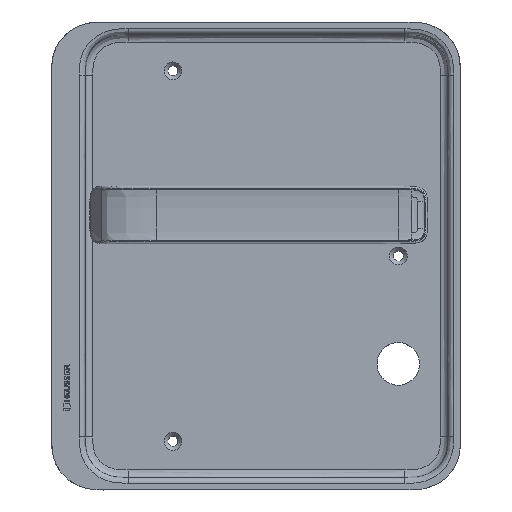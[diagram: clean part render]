
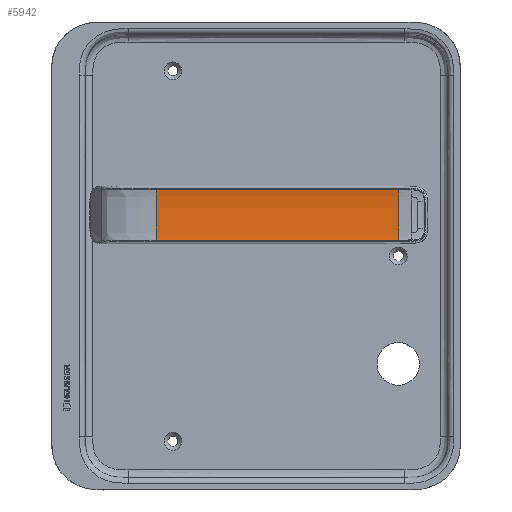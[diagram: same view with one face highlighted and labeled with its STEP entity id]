
A CAD part, top view. The second image highlights one B-rep face of the part: STEP entity #5942.
In plain terms, the highlighted free-form (B-spline) face has degree [1, 5] with [2, 6] control points.
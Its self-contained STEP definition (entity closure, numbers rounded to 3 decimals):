
#267=B_SPLINE_CURVE_WITH_KNOTS('',5,(#13985,#13986,#13987,#13988,#13989,
#13990),.UNSPECIFIED.,.F.,.F.,(6,6),(0.014,0.986),
 .UNSPECIFIED.);
#278=B_SPLINE_CURVE_WITH_KNOTS('',5,(#14172,#14173,#14174,#14175,#14176,
#14177),.UNSPECIFIED.,.F.,.F.,(6,6),(0.014,0.986),
 .UNSPECIFIED.);
#279=B_SPLINE_CURVE_WITH_KNOTS('',5,(#14178,#14179,#14180,#14181,#14182,
#14183,#14184,#14185,#14186,#14187,#14188,#14189,#14190,#14191,#14192),
 .UNSPECIFIED.,.F.,.F.,(6,1,1,1,1,1,1,1,1,1,6),(20.644,20.647,
22.233,23.819,25.404,26.99,28.576,
30.161,31.747,32.54,33.333),
 .UNSPECIFIED.);
#280=B_SPLINE_CURVE_WITH_KNOTS('',3,(#14193,#14194,#14195,#14196,#14197,
#14198,#14199,#14200,#14201,#14202,#14203,#14204,#14205,#14206,#14207,#14208,
#14209,#14210,#14211,#14212,#14213,#14214,#14215,#14216,#14217,#14218,#14219,
#14220),.UNSPECIFIED.,.F.,.F.,(4,3,3,3,3,3,3,3,3,4),(3.015,3.808,
4.601,6.186,7.772,9.358,10.943,
12.529,14.115,15.703),.UNSPECIFIED.);
#458=B_SPLINE_SURFACE_WITH_KNOTS('',1,5,((#14158,#14159,#14160,#14161,#14162,
#14163),(#14164,#14165,#14166,#14167,#14168,#14169)),.UNSPECIFIED.,.F.,
 .F.,.F.,(2,2),(6,6),(0.,1.),(0.,1.),.UNSPECIFIED.);
#1709=FACE_OUTER_BOUND('',#2106,.T.);
#2106=EDGE_LOOP('',(#4932,#4933,#4934,#4935));
#2707=VERTEX_POINT('',#13983);
#2708=VERTEX_POINT('',#13984);
#2719=VERTEX_POINT('',#14170);
#2720=VERTEX_POINT('',#14171);
#3462=EDGE_CURVE('',#2707,#2708,#267,.T.);
#3477=EDGE_CURVE('',#2719,#2720,#278,.T.);
#3478=EDGE_CURVE('',#2707,#2719,#279,.T.);
#3479=EDGE_CURVE('',#2720,#2708,#280,.T.);
#4932=ORIENTED_EDGE('',*,*,#3477,.F.);
#4933=ORIENTED_EDGE('',*,*,#3478,.F.);
#4934=ORIENTED_EDGE('',*,*,#3462,.T.);
#4935=ORIENTED_EDGE('',*,*,#3479,.F.);
#5942=ADVANCED_FACE('',(#1709),#458,.T.);
#13983=CARTESIAN_POINT('',(66.13,16.403,14.44));
#13984=CARTESIAN_POINT('',(66.121,42.914,14.44));
#13985=CARTESIAN_POINT('Ctrl Pts',(66.121,16.403,14.44));
#13986=CARTESIAN_POINT('Ctrl Pts',(66.123,18.551,13.823));
#13987=CARTESIAN_POINT('Ctrl Pts',(66.124,25.43,13.515));
#13988=CARTESIAN_POINT('Ctrl Pts',(66.124,33.886,13.515));
#13989=CARTESIAN_POINT('Ctrl Pts',(66.123,40.766,13.823));
#13990=CARTESIAN_POINT('Ctrl Pts',(66.121,42.914,14.44));
#14158=CARTESIAN_POINT('Ctrl Pts',(-60.73,16.259,14.484));
#14159=CARTESIAN_POINT('Ctrl Pts',(-60.73,18.185,13.832));
#14160=CARTESIAN_POINT('Ctrl Pts',(-60.73,25.262,13.506));
#14161=CARTESIAN_POINT('Ctrl Pts',(-60.73,34.055,13.506));
#14162=CARTESIAN_POINT('Ctrl Pts',(-60.73,41.132,13.832));
#14163=CARTESIAN_POINT('Ctrl Pts',(-60.73,43.059,14.484));
#14164=CARTESIAN_POINT('Ctrl Pts',(66.138,16.259,14.484));
#14165=CARTESIAN_POINT('Ctrl Pts',(66.14,18.185,13.832));
#14166=CARTESIAN_POINT('Ctrl Pts',(66.141,25.262,13.506));
#14167=CARTESIAN_POINT('Ctrl Pts',(66.141,34.055,13.506));
#14168=CARTESIAN_POINT('Ctrl Pts',(66.14,41.132,13.832));
#14169=CARTESIAN_POINT('Ctrl Pts',(66.138,43.059,14.484));
#14170=CARTESIAN_POINT('',(-60.73,16.403,14.439));
#14171=CARTESIAN_POINT('',(-60.73,42.915,14.439));
#14172=CARTESIAN_POINT('Ctrl Pts',(-60.73,16.403,14.439));
#14173=CARTESIAN_POINT('Ctrl Pts',(-60.73,18.551,13.823));
#14174=CARTESIAN_POINT('Ctrl Pts',(-60.73,25.43,13.515));
#14175=CARTESIAN_POINT('Ctrl Pts',(-60.73,33.887,13.515));
#14176=CARTESIAN_POINT('Ctrl Pts',(-60.73,40.766,13.823));
#14177=CARTESIAN_POINT('Ctrl Pts',(-60.73,42.915,14.439));
#14178=CARTESIAN_POINT('Ctrl Pts',(66.13,16.403,14.44));
#14179=CARTESIAN_POINT('Ctrl Pts',(66.122,16.403,14.44));
#14180=CARTESIAN_POINT('Ctrl Pts',(62.977,16.402,14.44));
#14181=CARTESIAN_POINT('Ctrl Pts',(56.641,16.403,14.44));
#14182=CARTESIAN_POINT('Ctrl Pts',(47.087,16.402,14.44));
#14183=CARTESIAN_POINT('Ctrl Pts',(34.408,16.403,14.44));
#14184=CARTESIAN_POINT('Ctrl Pts',(18.558,16.402,14.439));
#14185=CARTESIAN_POINT('Ctrl Pts',(2.691,16.403,14.44));
#14186=CARTESIAN_POINT('Ctrl Pts',(-13.162,16.402,14.439));
#14187=CARTESIAN_POINT('Ctrl Pts',(-27.429,16.403,14.44));
#14188=CARTESIAN_POINT('Ctrl Pts',(-40.118,16.402,14.439));
#14189=CARTESIAN_POINT('Ctrl Pts',(-49.632,16.403,14.44));
#14190=CARTESIAN_POINT('Ctrl Pts',(-55.973,16.403,14.439));
#14191=CARTESIAN_POINT('Ctrl Pts',(-59.144,16.403,14.44));
#14192=CARTESIAN_POINT('Ctrl Pts',(-60.73,16.403,14.439));
#14193=CARTESIAN_POINT('Ctrl Pts',(-60.73,42.915,14.439));
#14194=CARTESIAN_POINT('Ctrl Pts',(-58.087,42.915,14.439));
#14195=CARTESIAN_POINT('Ctrl Pts',(-55.444,42.915,14.439));
#14196=CARTESIAN_POINT('Ctrl Pts',(-52.801,42.915,14.439));
#14197=CARTESIAN_POINT('Ctrl Pts',(-50.159,42.915,14.439));
#14198=CARTESIAN_POINT('Ctrl Pts',(-47.517,42.915,14.439));
#14199=CARTESIAN_POINT('Ctrl Pts',(-44.874,42.915,14.439));
#14200=CARTESIAN_POINT('Ctrl Pts',(-39.589,42.915,14.439));
#14201=CARTESIAN_POINT('Ctrl Pts',(-34.302,42.915,14.439));
#14202=CARTESIAN_POINT('Ctrl Pts',(-29.016,42.915,14.439));
#14203=CARTESIAN_POINT('Ctrl Pts',(-23.73,42.915,14.439));
#14204=CARTESIAN_POINT('Ctrl Pts',(-18.446,42.915,14.439));
#14205=CARTESIAN_POINT('Ctrl Pts',(-13.161,42.915,14.439));
#14206=CARTESIAN_POINT('Ctrl Pts',(-7.877,42.915,14.439));
#14207=CARTESIAN_POINT('Ctrl Pts',(-2.592,42.915,14.439));
#14208=CARTESIAN_POINT('Ctrl Pts',(2.694,42.915,14.439));
#14209=CARTESIAN_POINT('Ctrl Pts',(7.981,42.915,14.439));
#14210=CARTESIAN_POINT('Ctrl Pts',(13.268,42.915,14.44));
#14211=CARTESIAN_POINT('Ctrl Pts',(18.554,42.915,14.44));
#14212=CARTESIAN_POINT('Ctrl Pts',(23.84,42.915,14.44));
#14213=CARTESIAN_POINT('Ctrl Pts',(29.123,42.915,14.44));
#14214=CARTESIAN_POINT('Ctrl Pts',(34.406,42.915,14.44));
#14215=CARTESIAN_POINT('Ctrl Pts',(39.689,42.915,14.44));
#14216=CARTESIAN_POINT('Ctrl Pts',(44.975,42.915,14.44));
#14217=CARTESIAN_POINT('Ctrl Pts',(50.266,42.915,14.44));
#14218=CARTESIAN_POINT('Ctrl Pts',(55.568,42.915,14.44));
#14219=CARTESIAN_POINT('Ctrl Pts',(60.882,42.916,14.44));
#14220=CARTESIAN_POINT('Ctrl Pts',(66.121,42.914,14.44));
